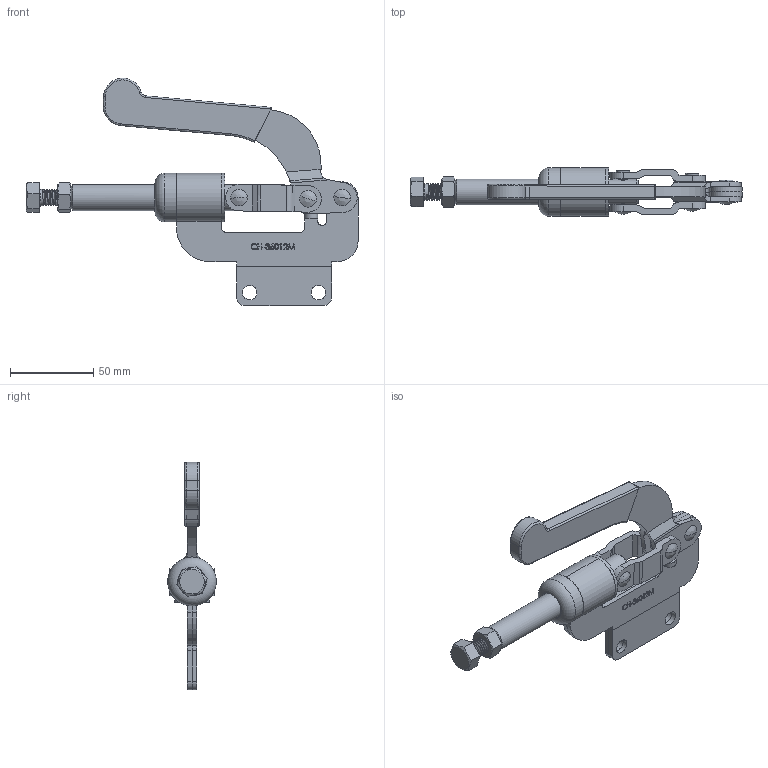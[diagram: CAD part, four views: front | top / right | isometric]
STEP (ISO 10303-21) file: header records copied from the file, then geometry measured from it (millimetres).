
FILE_DESCRIPTION(/* description */ ('STEP AP203'),/* implementation_level */ '2;1');
FILE_NAME(/* name */ 'D:\Vault_2016\Projekty\STRONA\Push-pull clamp\CH-36012M\CH-36012M_ZAMKNIETY.stp',/* time_stamp */ '2019-01-11T11:01:50+01:00',/* author */ ('user'),/* organization */ ('Î¢ÈíÖÐ¹ú'),/* preprocessor_version */ 'ST-DEVELOPER v17.2',/* originating_system */ 'Autodesk Inventor 2019',/* authorisation */ '');
FILE_SCHEMA (('AUTOMOTIVE_DESIGN { 1 0 10303 214 3 1 1 }'));
Products named in the file (13): CH-36012M_ZAMKNIETY; CH-36010M-11; CH-36010M-08; CH-36012M-01 BASE; CH-36010M-03 HANDLE; CH-36010M-02 CREST STALK; CH-36010M-05 LEAD SET; CH-SA-105015 SPINDLE SUPPLIED; CH-36010M-10; M10 Nut; CH-36010M-09; CH-36010M-07; CH-36010M-04 CONNECTING-PLATE
Assembly tree (13 placements, depth 2):
  CH-36012M_ZAMKNIETY
    CH-36010M-04 CONNECTING-PLATE  x2
    CH-36010M-11
    CH-36010M-08
    CH-36012M-01 BASE
    CH-36010M-03 HANDLE
    CH-36010M-02 CREST STALK
    CH-36010M-05 LEAD SET
    CH-SA-105015 SPINDLE SUPPLIED
    CH-36010M-10
    M10 Nut
    CH-36010M-09
    CH-36010M-07
Bounding box: 199.47 x 29.2 x 136.73 mm (x, y, z)
Volume: 104933.7 mm3; surface area: 62559.8 mm2
Topology: 16 solids, 16 shells, 657 faces, 1832 edges, 1235 vertices
Faces by surface type: plane 278, bspline 191, cylinder 148, cone 22, torus 18
Full cylindrical faces by diameter (mm): 1.962 x1, 2.321 x1, 5.8 x3, 6.4 x11, 6.46 x1, 8.5 x21, 8.7 x4, 9.5 x6, 10 x30, 15.6 x2, 23.2 x1, 29.2 x2
Entity records: 40571 total; most frequent: CARTESIAN_POINT 24967, ORIENTED_EDGE 3530, DIRECTION 2499, EDGE_CURVE 1765, VERTEX_POINT 1195, LINE 921, VECTOR 921, AXIS2_PLACEMENT_3D 789
